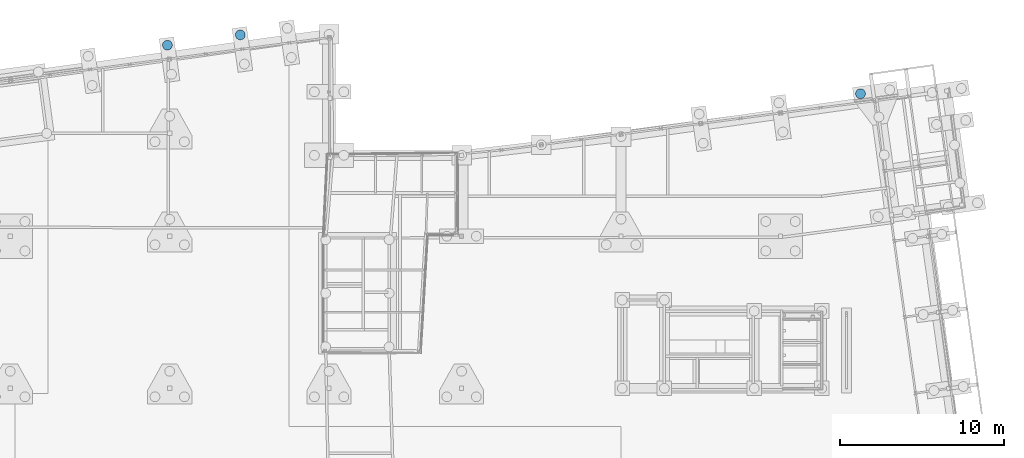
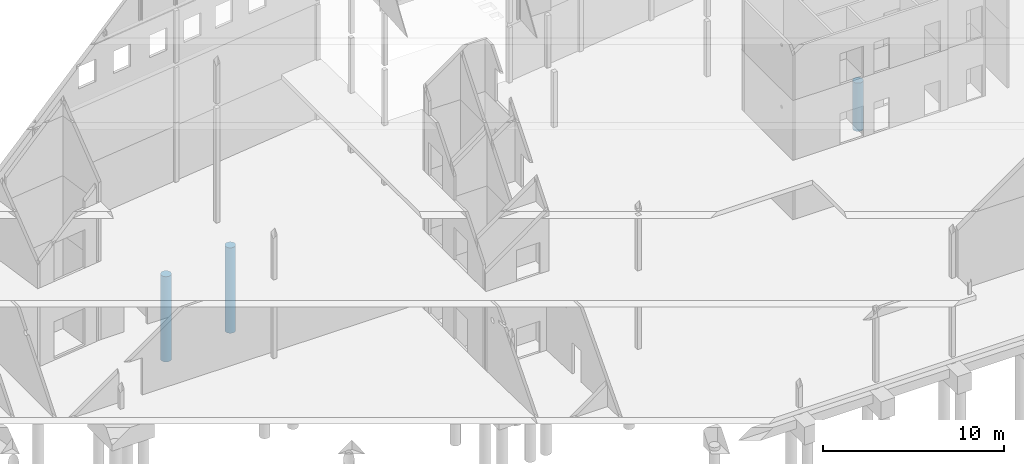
# One storey, part 54 of 82: 3 columns.
"""IFC2X3 building model written with IfcOpenShell, lengths in millimetres."""

from ifc_helpers import new_model, si_unit, frame, frame_2d, origin_with_axes, place, context, subcontext, project, spatial, circle, extrude, material, type_object, element, save


model = new_model("IFC2X3")

# Units and contexts
model_context = context("Model", 3, precision=1e-05, world=origin_with_axes())
body_context = subcontext(model_context, "Body", "Model", "MODEL_VIEW")
ifc_project = project(units=[si_unit("LENGTHUNIT", "METRE", prefix="MILLI"), si_unit("AREAUNIT", "SQUARE_METRE"), si_unit("VOLUMEUNIT", "CUBIC_METRE"), si_unit("MASSUNIT", "GRAM", prefix="KILO"), si_unit("TIMEUNIT", "SECOND"), si_unit("PLANEANGLEUNIT", "RADIAN"), si_unit("SOLIDANGLEUNIT", "STERADIAN"), si_unit("THERMODYNAMICTEMPERATUREUNIT", "DEGREE_CELSIUS"), si_unit("LUMINOUSINTENSITYUNIT", "LUMEN")], contexts=[model_context])

# Site, building, storey
site_placement = place(None, origin_with_axes())
site = spatial("IfcSite", under=ifc_project, at=site_placement, Name="Undefined", CompositionType="ELEMENT")
building_placement = place(site_placement, origin_with_axes())
building = spatial("IfcBuilding", under=site, at=building_placement, Name="Undefined", CompositionType="ELEMENT")
storey_placement = place(building_placement, origin_with_axes())
storey = spatial("IfcBuildingStorey", under=building, at=storey_placement, Name="Undefined", CompositionType="ELEMENT", Elevation=0.0)

# Columns
ifc_material = material(Name="CONCRETE/C25/30")
column_type = type_object("IfcColumnType", Name="D600", PredefinedType="NOTDEFINED")
for number, where, z_axis, x_axis in (
    (1, (23819.1320089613, 30909.782811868, -7175.0), (0.0, 0.0, 1.0), (1.0, 0.0, 0.0)),
    (2, (19362.9220089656, 30283.5028118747, -7175.0), (0.0, 0.0, 1.0), (1.0, 0.0, 0.0)),
):
    element("IfcColumn", number, at=place(storey_placement, frame(where, z_axis=z_axis, x_axis=x_axis)), inside=storey, type_object=column_type, material=ifc_material, Name="PIEU", ObjectType="D600", context=body_context, shape_type="SweptSolid", body=[
        extrude(circle(Radius=300.0, at=frame_2d((5.17284206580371e-08, 4.49290382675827e-10), x_axis=(1.0, 0.0))), frame((0.0, 0.0, 5750.0), z_axis=(0.0, -6.50000002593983e-08, -0.999999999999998), x_axis=(0.991215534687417, 0.132256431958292, 0.0)), (0.0, 0.0, 1.0), 5750.0),
    ])
column_placement = place(storey_placement, frame((61742.075286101, 27313.0507695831, -4675.0), z_axis=(0.0, 0.0, 1.0), x_axis=(1.0, 0.0, 0.0)))
element("IfcColumn", 3, at=column_placement, inside=storey, type_object=column_type, material=ifc_material, Name="PIEU", ObjectType="D600", context=body_context, shape_type="SweptSolid", body=[
    extrude(circle(Radius=300.0, at=frame_2d((5.17284206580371e-08, 4.49290382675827e-10), x_axis=(1.0, 0.0))), frame((0.0, 0.0, 3250.0), z_axis=(0.0, -6.50000002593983e-08, -0.999999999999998), x_axis=(-0.382683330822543, -0.92387957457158, 0.0)), (0.0, 0.0, 1.0), 3250.0),
])

save(model, "model.ifc")
